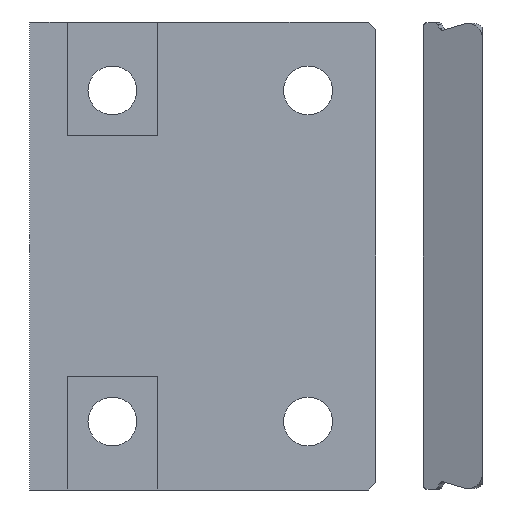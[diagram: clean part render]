
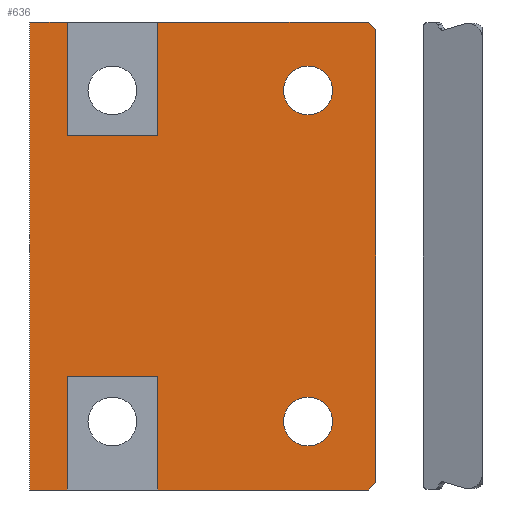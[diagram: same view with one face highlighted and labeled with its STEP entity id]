
A CAD part, front view. The second image highlights one B-rep face of the part: STEP entity #636.
In plain terms, the highlighted planar face has unit normal (0, -1, 0).
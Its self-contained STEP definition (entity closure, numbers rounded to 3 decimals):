
#4 = EDGE_CURVE ( 'NONE', #622, #566, #790, .T. ) ;
#25 = ORIENTED_EDGE ( 'NONE', *, *, #282, .T. ) ;
#57 = VERTEX_POINT ( 'NONE', #882 ) ;
#58 = ORIENTED_EDGE ( 'NONE', *, *, #65, .T. ) ;
#59 = EDGE_CURVE ( 'NONE', #665, #66, #881, .T. ) ;
#60 = ORIENTED_EDGE ( 'NONE', *, *, #61, .F. ) ;
#61 = EDGE_CURVE ( 'NONE', #438, #66, #877, .T. ) ;
#64 = ORIENTED_EDGE ( 'NONE', *, *, #554, .F. ) ;
#65 = EDGE_CURVE ( 'NONE', #438, #57, #869, .T. ) ;
#66 = VERTEX_POINT ( 'NONE', #865 ) ;
#69 = EDGE_CURVE ( 'NONE', #562, #663, #863, .T. ) ;
#70 = ORIENTED_EDGE ( 'NONE', *, *, #69, .F. ) ;
#71 = ORIENTED_EDGE ( 'NONE', *, *, #80, .F. ) ;
#76 = ORIENTED_EDGE ( 'NONE', *, *, #650, .T. ) ;
#79 = ORIENTED_EDGE ( 'NONE', *, *, #639, .T. ) ;
#80 = EDGE_CURVE ( 'NONE', #641, #57, #914, .T. ) ;
#107 = EDGE_CURVE ( 'NONE', #599, #523, #925, .T. ) ;
#118 = ORIENTED_EDGE ( 'NONE', *, *, #525, .F. ) ;
#119 = ORIENTED_EDGE ( 'NONE', *, *, #107, .F. ) ;
#125 = ORIENTED_EDGE ( 'NONE', *, *, #624, .T. ) ;
#282 = EDGE_CURVE ( 'NONE', #619, #519, #1214, .T. ) ;
#435 = ORIENTED_EDGE ( 'NONE', *, *, #658, .T. ) ;
#437 = ORIENTED_EDGE ( 'NONE', *, *, #4, .F. ) ;
#438 = VERTEX_POINT ( 'NONE', #1446 ) ;
#443 = VERTEX_POINT ( 'NONE', #1498 ) ;
#451 = VERTEX_POINT ( 'NONE', #1490 ) ;
#453 = EDGE_CURVE ( 'NONE', #443, #451, #1485, .T. ) ;
#519 = VERTEX_POINT ( 'NONE', #1617 ) ;
#523 = VERTEX_POINT ( 'NONE', #1615 ) ;
#525 = EDGE_CURVE ( 'NONE', #523, #519, #1613, .T. ) ;
#554 = EDGE_CURVE ( 'NONE', #566, #562, #1693, .T. ) ;
#562 = VERTEX_POINT ( 'NONE', #1673 ) ;
#566 = VERTEX_POINT ( 'NONE', #1671 ) ;
#599 = VERTEX_POINT ( 'NONE', #1736 ) ;
#619 = VERTEX_POINT ( 'NONE', #1775 ) ;
#622 = VERTEX_POINT ( 'NONE', #1770 ) ;
#624 = EDGE_CURVE ( 'NONE', #622, #619, #1769, .T. ) ;
#636 = ADVANCED_FACE ( 'NONE', ( #1810, #1809, #1808 ), #1814, .F. ) ;
#638 = VERTEX_POINT ( 'NONE', #1803 ) ;
#639 = EDGE_CURVE ( 'NONE', #599, #638, #1802, .T. ) ;
#641 = VERTEX_POINT ( 'NONE', #1798 ) ;
#643 = ORIENTED_EDGE ( 'NONE', *, *, #660, .T. ) ;
#649 = EDGE_LOOP ( 'NONE', ( #643, #657 ) ) ;
#650 = EDGE_CURVE ( 'NONE', #641, #663, #1851, .T. ) ;
#652 = ORIENTED_EDGE ( 'NONE', *, *, #59, .T. ) ;
#653 = EDGE_LOOP ( 'NONE', ( #435, #662 ) ) ;
#656 = EDGE_CURVE ( 'NONE', #638, #665, #1845, .T. ) ;
#657 = ORIENTED_EDGE ( 'NONE', *, *, #762, .T. ) ;
#658 = EDGE_CURVE ( 'NONE', #451, #443, #1841, .T. ) ;
#659 = ORIENTED_EDGE ( 'NONE', *, *, #656, .T. ) ;
#660 = EDGE_CURVE ( 'NONE', #752, #753, #1836, .T. ) ;
#661 = EDGE_LOOP ( 'NONE', ( #659, #652, #60, #58, #71, #76, #70, #64, #437, #125, #25, #118, #119, #79 ) ) ;
#662 = ORIENTED_EDGE ( 'NONE', *, *, #453, .T. ) ;
#663 = VERTEX_POINT ( 'NONE', #1831 ) ;
#665 = VERTEX_POINT ( 'NONE', #1830 ) ;
#752 = VERTEX_POINT ( 'NONE', #1978 ) ;
#753 = VERTEX_POINT ( 'NONE', #1977 ) ;
#762 = EDGE_CURVE ( 'NONE', #753, #752, #1960, .T. ) ;
#787 = DIRECTION ( 'NONE',  ( 1., 0., 0. ) ) ;
#788 = VECTOR ( 'NONE', #787, 1000. ) ;
#789 = CARTESIAN_POINT ( 'NONE',  ( -22., 9.5, 62.2 ) ) ;
#790 = LINE ( 'NONE', #789, #788 ) ;
#860 = DIRECTION ( 'NONE',  ( 1., 0., 0. ) ) ;
#861 = VECTOR ( 'NONE', #860, 1000. ) ;
#862 = CARTESIAN_POINT ( 'NONE',  ( -22., 9.5, 32. ) ) ;
#863 = LINE ( 'NONE', #862, #861 ) ;
#865 = CARTESIAN_POINT ( 'NONE',  ( 70., 9.5, -60.2 ) ) ;
#866 = DIRECTION ( 'NONE',  ( -0.707, 0., 0.707 ) ) ;
#867 = VECTOR ( 'NONE', #866, 1000. ) ;
#868 = CARTESIAN_POINT ( 'NONE',  ( 68., 9.5, 62.2 ) ) ;
#869 = LINE ( 'NONE', #868, #867 ) ;
#874 = DIRECTION ( 'NONE',  ( 0., 0., -1. ) ) ;
#875 = VECTOR ( 'NONE', #874, 1000. ) ;
#876 = CARTESIAN_POINT ( 'NONE',  ( 70., 9.5, 62.2 ) ) ;
#877 = LINE ( 'NONE', #876, #875 ) ;
#878 = DIRECTION ( 'NONE',  ( 0.707, 0., 0.707 ) ) ;
#879 = VECTOR ( 'NONE', #878, 1000. ) ;
#880 = CARTESIAN_POINT ( 'NONE',  ( 70., 9.5, -60.2 ) ) ;
#881 = LINE ( 'NONE', #880, #879 ) ;
#882 = CARTESIAN_POINT ( 'NONE',  ( 68., 9.5, 62.2 ) ) ;
#908 = DIRECTION ( 'NONE',  ( 1., 0., 0. ) ) ;
#909 = VECTOR ( 'NONE', #908, 1000. ) ;
#910 = CARTESIAN_POINT ( 'NONE',  ( 12., 9.5, 62.2 ) ) ;
#914 = LINE ( 'NONE', #910, #909 ) ;
#922 = DIRECTION ( 'NONE',  ( -1., 0., 0. ) ) ;
#923 = VECTOR ( 'NONE', #922, 1000. ) ;
#924 = CARTESIAN_POINT ( 'NONE',  ( -22., 9.5, -32. ) ) ;
#925 = LINE ( 'NONE', #924, #923 ) ;
#1211 = DIRECTION ( 'NONE',  ( 1., 0., 0. ) ) ;
#1212 = VECTOR ( 'NONE', #1211, 1000. ) ;
#1213 = CARTESIAN_POINT ( 'NONE',  ( -22., 9.5, -62.2 ) ) ;
#1214 = LINE ( 'NONE', #1213, #1212 ) ;
#1446 = CARTESIAN_POINT ( 'NONE',  ( 70., 9.5, 60.2 ) ) ;
#1481 = DIRECTION ( 'NONE',  ( 0., 0., 1. ) ) ;
#1482 = DIRECTION ( 'NONE',  ( 0., 1., 0. ) ) ;
#1483 = CARTESIAN_POINT ( 'NONE',  ( 52., 9.5, -44. ) ) ;
#1484 = AXIS2_PLACEMENT_3D ( 'NONE', #1483, #1482, #1481 ) ;
#1485 = CIRCLE ( 'NONE', #1484, 6.5 ) ;
#1490 = CARTESIAN_POINT ( 'NONE',  ( 52., 9.5, -37.5 ) ) ;
#1498 = CARTESIAN_POINT ( 'NONE',  ( 52., 9.5, -50.5 ) ) ;
#1610 = DIRECTION ( 'NONE',  ( 0., 0., -1. ) ) ;
#1611 = VECTOR ( 'NONE', #1610, 1000. ) ;
#1612 = CARTESIAN_POINT ( 'NONE',  ( -12., 9.5, 62.2 ) ) ;
#1613 = LINE ( 'NONE', #1612, #1611 ) ;
#1615 = CARTESIAN_POINT ( 'NONE',  ( -12., 9.5, -32. ) ) ;
#1617 = CARTESIAN_POINT ( 'NONE',  ( -12., 9.5, -62.2 ) ) ;
#1671 = CARTESIAN_POINT ( 'NONE',  ( -12., 9.5, 62.2 ) ) ;
#1673 = CARTESIAN_POINT ( 'NONE',  ( -12., 9.5, 32. ) ) ;
#1690 = DIRECTION ( 'NONE',  ( 0., 0., -1. ) ) ;
#1691 = VECTOR ( 'NONE', #1690, 1000. ) ;
#1692 = CARTESIAN_POINT ( 'NONE',  ( -12., 9.5, 62.2 ) ) ;
#1693 = LINE ( 'NONE', #1692, #1691 ) ;
#1736 = CARTESIAN_POINT ( 'NONE',  ( 12., 9.5, -32. ) ) ;
#1766 = DIRECTION ( 'NONE',  ( 0., 0., -1. ) ) ;
#1767 = VECTOR ( 'NONE', #1766, 1000. ) ;
#1768 = CARTESIAN_POINT ( 'NONE',  ( -22., 9.5, 62.2 ) ) ;
#1769 = LINE ( 'NONE', #1768, #1767 ) ;
#1770 = CARTESIAN_POINT ( 'NONE',  ( -22., 9.5, 62.2 ) ) ;
#1775 = CARTESIAN_POINT ( 'NONE',  ( -22., 9.5, -62.2 ) ) ;
#1798 = CARTESIAN_POINT ( 'NONE',  ( 12., 9.5, 62.2 ) ) ;
#1799 = DIRECTION ( 'NONE',  ( 0., 0., -1. ) ) ;
#1800 = VECTOR ( 'NONE', #1799, 1000. ) ;
#1801 = CARTESIAN_POINT ( 'NONE',  ( 12., 9.5, 62.2 ) ) ;
#1802 = LINE ( 'NONE', #1801, #1800 ) ;
#1803 = CARTESIAN_POINT ( 'NONE',  ( 12., 9.5, -62.2 ) ) ;
#1804 = DIRECTION ( 'NONE',  ( 0., 0., 1. ) ) ;
#1805 = DIRECTION ( 'NONE',  ( 0., 1., 0. ) ) ;
#1806 = CARTESIAN_POINT ( 'NONE',  ( 12., 9.5, 62.2 ) ) ;
#1807 = AXIS2_PLACEMENT_3D ( 'NONE', #1806, #1805, #1804 ) ;
#1808 = FACE_OUTER_BOUND ( 'NONE', #661, .T. ) ;
#1809 = FACE_BOUND ( 'NONE', #653, .T. ) ;
#1810 = FACE_BOUND ( 'NONE', #649, .T. ) ;
#1814 = PLANE ( 'NONE',  #1807 ) ;
#1830 = CARTESIAN_POINT ( 'NONE',  ( 68., 9.5, -62.2 ) ) ;
#1831 = CARTESIAN_POINT ( 'NONE',  ( 12., 9.5, 32. ) ) ;
#1832 = DIRECTION ( 'NONE',  ( 0., 0., 1. ) ) ;
#1833 = DIRECTION ( 'NONE',  ( 0., 1., 0. ) ) ;
#1834 = CARTESIAN_POINT ( 'NONE',  ( 52., 9.5, 44. ) ) ;
#1835 = AXIS2_PLACEMENT_3D ( 'NONE', #1834, #1833, #1832 ) ;
#1836 = CIRCLE ( 'NONE', #1835, 6.5 ) ;
#1837 = DIRECTION ( 'NONE',  ( 0., 0., 1. ) ) ;
#1838 = DIRECTION ( 'NONE',  ( 0., 1., 0. ) ) ;
#1839 = CARTESIAN_POINT ( 'NONE',  ( 52., 9.5, -44. ) ) ;
#1840 = AXIS2_PLACEMENT_3D ( 'NONE', #1839, #1838, #1837 ) ;
#1841 = CIRCLE ( 'NONE', #1840, 6.5 ) ;
#1842 = DIRECTION ( 'NONE',  ( 1., 0., 0. ) ) ;
#1843 = VECTOR ( 'NONE', #1842, 1000. ) ;
#1844 = CARTESIAN_POINT ( 'NONE',  ( 12., 9.5, -62.2 ) ) ;
#1845 = LINE ( 'NONE', #1844, #1843 ) ;
#1848 = DIRECTION ( 'NONE',  ( 0., 0., -1. ) ) ;
#1849 = VECTOR ( 'NONE', #1848, 1000. ) ;
#1850 = CARTESIAN_POINT ( 'NONE',  ( 12., 9.5, 62.2 ) ) ;
#1851 = LINE ( 'NONE', #1850, #1849 ) ;
#1956 = DIRECTION ( 'NONE',  ( 0., 0., 1. ) ) ;
#1957 = DIRECTION ( 'NONE',  ( 0., 1., 0. ) ) ;
#1958 = CARTESIAN_POINT ( 'NONE',  ( 52., 9.5, 44. ) ) ;
#1959 = AXIS2_PLACEMENT_3D ( 'NONE', #1958, #1957, #1956 ) ;
#1960 = CIRCLE ( 'NONE', #1959, 6.5 ) ;
#1977 = CARTESIAN_POINT ( 'NONE',  ( 52., 9.5, 37.5 ) ) ;
#1978 = CARTESIAN_POINT ( 'NONE',  ( 52., 9.5, 50.5 ) ) ;
